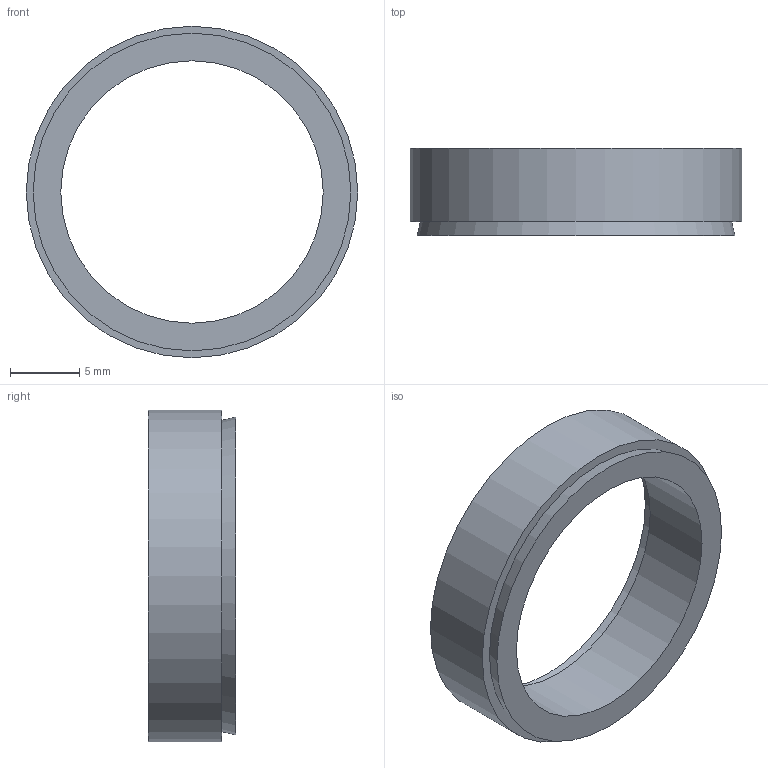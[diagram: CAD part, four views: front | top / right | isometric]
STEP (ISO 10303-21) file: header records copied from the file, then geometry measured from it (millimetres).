
FILE_DESCRIPTION( ( 'Unknown' ), '1' );
FILE_NAME( 'C:/Dokumente und Einstellungen/Sven/Desktop/homepage/cad - homepage/KBS50/KBS 50 - 19 x 24.stp', 'Unknown', ( 'Unknown' ), ( 'Unknown' ), 'XStep 1.0', 'Unknown', ' ' );
FILE_SCHEMA( ( 'automotive_design' ) );
Length unit declared in the file: millimetre
Products named in the file (1): 1
Bounding box: 24 x 6.3 x 24 mm (x, y, z)
Volume: 980.2 mm3; surface area: 1224.7 mm2
Topology: 1 solids, 1 shells, 8 faces, 12 edges, 8 vertices
Faces by surface type: plane 4, cylinder 2, cone 2
Full cylindrical faces by diameter (mm): 19 x1, 24 x1
Entity records: 248 total; most frequent: DIRECTION 34, CARTESIAN_POINT 25, AXIS2_PLACEMENT_3D 17, EDGE_LOOP 16, ORIENTED_EDGE 16, FACE_OUTER_BOUND 10, STYLED_ITEM 8, PRESENTATION_STYLE_ASSIGNMENT 8
